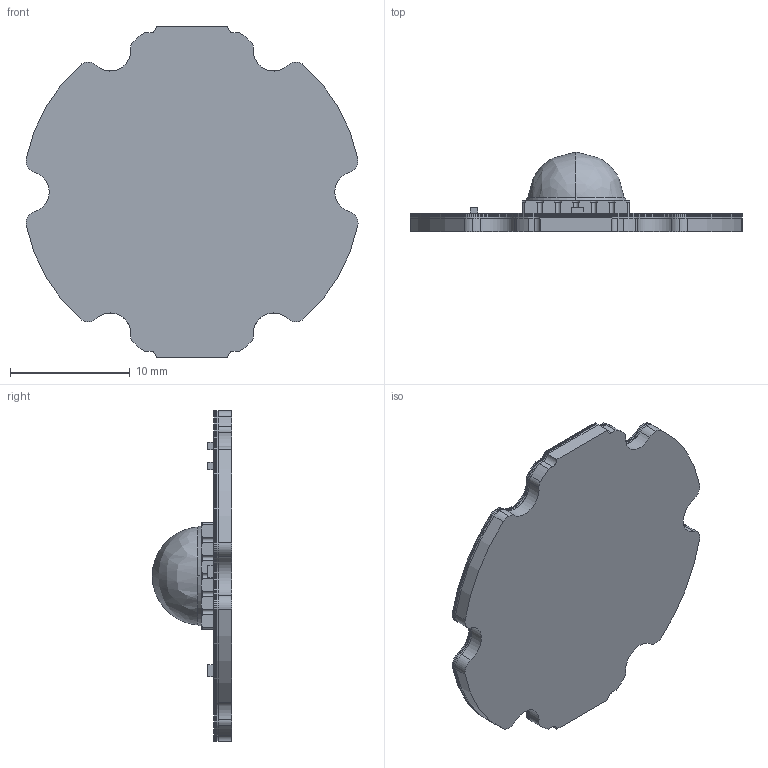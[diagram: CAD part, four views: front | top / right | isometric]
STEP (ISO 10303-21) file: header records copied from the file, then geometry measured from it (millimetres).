
FILE_DESCRIPTION (( 'STEP AP214' ), '1' );
FILE_NAME ('LZC-B3MA07-P3_LZC-RGBA_MCPCB_RevA1.STEP', '2012-12-17T19:16:04', ( '' ), ( '' ), 'SwSTEP 2.0', 'SolidWorks 2011', '' );
FILE_SCHEMA (( 'AUTOMOTIVE_DESIGN' ));
Length unit declared in the file: millimetre
Products named in the file (1): LZC-B3MA07-P3_LZC-RGBA_MCPCB_RevA1
Bounding box: 27.77 x 6.66 x 27.62 mm (x, y, z)
Volume: 1088.8 mm3; surface area: 6609.7 mm2
Topology: 120 solids, 120 shells, 3145 faces, 8596 edges, 5701 vertices
Faces by surface type: plane 1783, cylinder 1181, bspline 177, cone 4
Entity records: 145288 total; most frequent: CARTESIAN_POINT 27216, ORIENTED_EDGE 17180, DIRECTION 16555, EDGE_CURVE 8590, LINE 5867, VECTOR 5867, VERTEX_POINT 5701, AXIS2_PLACEMENT_3D 5344
